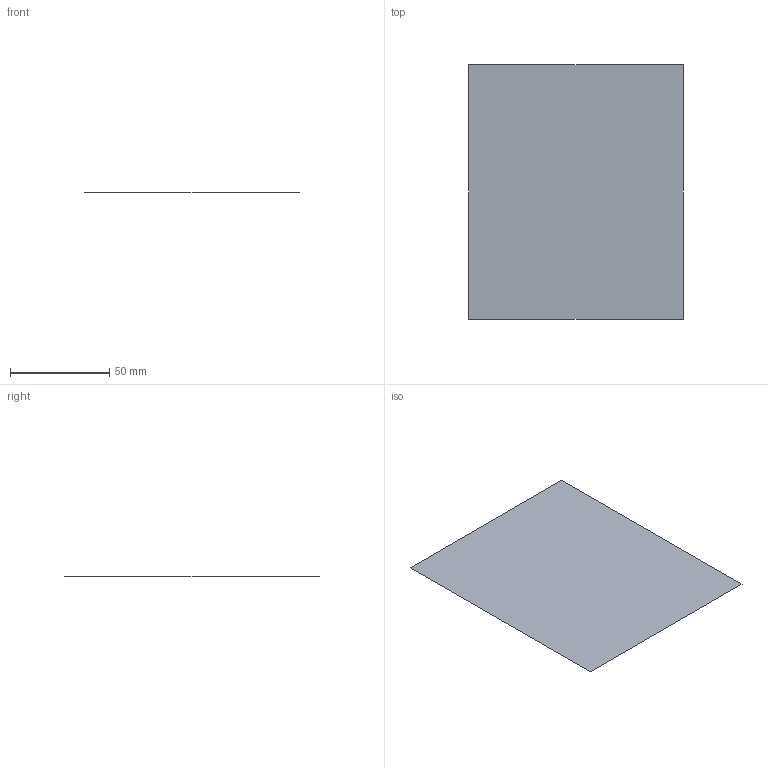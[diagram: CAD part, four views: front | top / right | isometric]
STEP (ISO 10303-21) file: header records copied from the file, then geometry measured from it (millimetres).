
FILE_DESCRIPTION(('CATIA V5 STEP Exchange'),'2;1');
FILE_NAME('C:\_Andres\UNIVERSIDAD\IQS\ASIGNATURAS\DAO\EXF\EXF-15161c\1original\Perelló_Ibarra_Ej06-calculo_v18.stp','2016-03-04T20:57:43+00:00',('none'),('none'),'CATIA Version 5 Release 20 SP 1 (IN-10)','CATIA V5 STEP AP203','none');
FILE_SCHEMA(('CONFIG_CONTROL_DESIGN'));
Length unit declared in the file: millimetre
Products named in the file (1): Perelló_Ibarra_Ej06-calculo_v18
Bounding box: 108 x 128 x 0 mm (x, y, z)
Surface area: 13824 mm2 (no closed solid volume)
Topology: 0 solids, 1 shells, 1 faces, 8 edges, 9 vertices
Faces by surface type: plane 1
Entity records: 130 total; most frequent: CARTESIAN_POINT 23, DIRECTION 12, VECTOR 8, LINE 8, COMPOSITE_CURVE_SEGMENT 4, ORIENTED_EDGE 4, CC_DESIGN_PERSON_AND_ORGANIZATION_ASSIGNMENT 4, PERSON_AND_ORGANIZATION_ROLE 4
